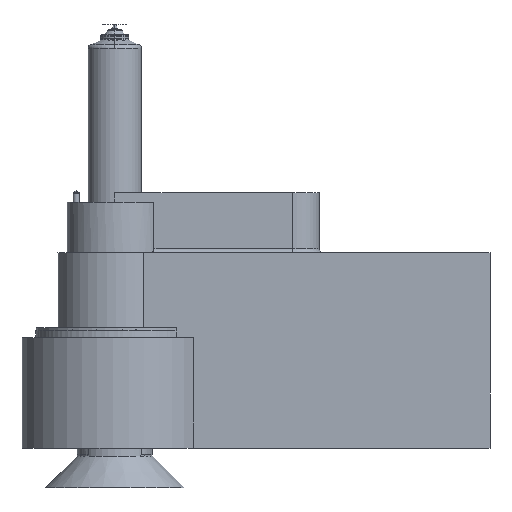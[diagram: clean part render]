
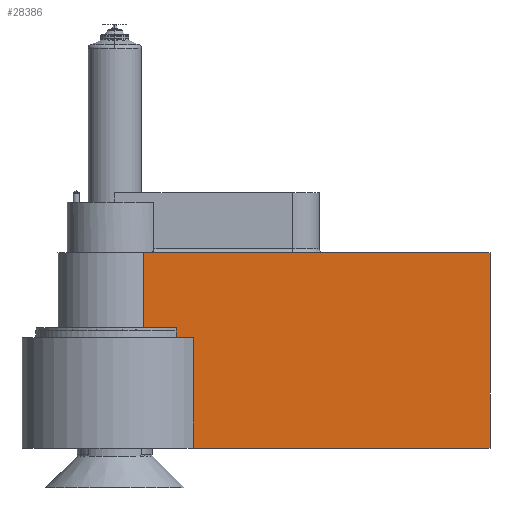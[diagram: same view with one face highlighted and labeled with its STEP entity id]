
A CAD part, front view. The second image highlights one B-rep face of the part: STEP entity #28386.
In plain terms, the highlighted planar face has unit normal (0, -1, 0).
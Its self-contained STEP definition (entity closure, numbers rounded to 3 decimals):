
#60 = LINE ( 'NONE', #38732, #2842 ) ;
#62 = VERTEX_POINT ( 'NONE', #36943 ) ;
#208 = ORIENTED_EDGE ( 'NONE', *, *, #33208, .F. ) ;
#388 = CARTESIAN_POINT ( 'NONE',  ( 190., -25., -107. ) ) ;
#1327 = VECTOR ( 'NONE', #17486, 1000. ) ;
#2294 = ORIENTED_EDGE ( 'NONE', *, *, #41546, .F. ) ;
#2842 = VECTOR ( 'NONE', #11421, 1000. ) ;
#3008 = VECTOR ( 'NONE', #28571, 1000. ) ;
#4091 = VERTEX_POINT ( 'NONE', #29759 ) ;
#6332 = VERTEX_POINT ( 'NONE', #42247 ) ;
#8786 = VERTEX_POINT ( 'NONE', #41950 ) ;
#8909 = VECTOR ( 'NONE', #9405, 1000. ) ;
#9145 = DIRECTION ( 'NONE',  ( 0., 0., 1. ) ) ;
#9405 = DIRECTION ( 'NONE',  ( 0., 0., 1. ) ) ;
#10457 = ORIENTED_EDGE ( 'NONE', *, *, #34163, .F. ) ;
#11374 = ORIENTED_EDGE ( 'NONE', *, *, #35253, .T. ) ;
#11421 = DIRECTION ( 'NONE',  ( -1., 0., 0. ) ) ;
#12503 = DIRECTION ( 'NONE',  ( 0., 0., -1. ) ) ;
#12676 = CARTESIAN_POINT ( 'NONE',  ( 190., -25., -8. ) ) ;
#13175 = CARTESIAN_POINT ( 'NONE',  ( 39.799, -25., 85.716 ) ) ;
#14210 = ORIENTED_EDGE ( 'NONE', *, *, #17630, .F. ) ;
#15220 = ORIENTED_EDGE ( 'NONE', *, *, #32430, .F. ) ;
#17486 = DIRECTION ( 'NONE',  ( -1., 0., 0. ) ) ;
#17630 = EDGE_CURVE ( 'NONE', #4091, #18617, #27602, .T. ) ;
#18036 = VECTOR ( 'NONE', #9145, 1000. ) ;
#18617 = VERTEX_POINT ( 'NONE', #44849 ) ;
#19527 = CARTESIAN_POINT ( 'NONE',  ( 31.225, -25., 85.716 ) ) ;
#20653 = LINE ( 'NONE', #13175, #26751 ) ;
#21333 = EDGE_CURVE ( 'NONE', #62, #4091, #44416, .T. ) ;
#22647 = CARTESIAN_POINT ( 'NONE',  ( 190., -25., -8. ) ) ;
#22907 = CARTESIAN_POINT ( 'NONE',  ( 190., -25., -107. ) ) ;
#23489 = CARTESIAN_POINT ( 'NONE',  ( 190., -25., -8. ) ) ;
#24969 = EDGE_CURVE ( 'NONE', #35486, #6332, #29058, .T. ) ;
#25543 = FACE_OUTER_BOUND ( 'NONE', #34597, .T. ) ;
#25767 = LINE ( 'NONE', #26706, #18036 ) ;
#26294 = VERTEX_POINT ( 'NONE', #22647 ) ;
#26706 = CARTESIAN_POINT ( 'NONE',  ( 14.697, -25., 85.716 ) ) ;
#26729 = AXIS2_PLACEMENT_3D ( 'NONE', #12676, #34202, #37464 ) ;
#26751 = VECTOR ( 'NONE', #41226, 1000. ) ;
#26947 = PLANE ( 'NONE',  #26729 ) ;
#27602 = LINE ( 'NONE', #38643, #31973 ) ;
#28386 = ADVANCED_FACE ( 'NONE', ( #25543 ), #26947, .F. ) ;
#28571 = DIRECTION ( 'NONE',  ( -1., 0., 0. ) ) ;
#29058 = LINE ( 'NONE', #388, #3008 ) ;
#29759 = CARTESIAN_POINT ( 'NONE',  ( 31.225, -25., -46. ) ) ;
#31973 = VECTOR ( 'NONE', #45298, 1000. ) ;
#32430 = EDGE_CURVE ( 'NONE', #18617, #36522, #25767, .T. ) ;
#33208 = EDGE_CURVE ( 'NONE', #8786, #62, #35121, .T. ) ;
#34163 = EDGE_CURVE ( 'NONE', #6332, #8786, #20653, .T. ) ;
#34202 = DIRECTION ( 'NONE',  ( 0., 1., 0. ) ) ;
#34597 = EDGE_LOOP ( 'NONE', ( #10457, #37196, #2294, #11374, #15220, #14210, #36258, #208 ) ) ;
#35121 = LINE ( 'NONE', #35142, #1327 ) ;
#35142 = CARTESIAN_POINT ( 'NONE',  ( 0., -25., -51. ) ) ;
#35253 = EDGE_CURVE ( 'NONE', #26294, #36522, #60, .T. ) ;
#35486 = VERTEX_POINT ( 'NONE', #22907 ) ;
#36223 = CARTESIAN_POINT ( 'NONE',  ( 14.697, -25., -8. ) ) ;
#36258 = ORIENTED_EDGE ( 'NONE', *, *, #21333, .F. ) ;
#36522 = VERTEX_POINT ( 'NONE', #36223 ) ;
#36943 = CARTESIAN_POINT ( 'NONE',  ( 31.225, -25., -51. ) ) ;
#37196 = ORIENTED_EDGE ( 'NONE', *, *, #24969, .F. ) ;
#37464 = DIRECTION ( 'NONE',  ( 0., 0., 1. ) ) ;
#37471 = VECTOR ( 'NONE', #12503, 1000. ) ;
#38643 = CARTESIAN_POINT ( 'NONE',  ( 0., -25., -46. ) ) ;
#38732 = CARTESIAN_POINT ( 'NONE',  ( 190., -25., -8. ) ) ;
#40826 = LINE ( 'NONE', #23489, #37471 ) ;
#41226 = DIRECTION ( 'NONE',  ( 0., 0., 1. ) ) ;
#41546 = EDGE_CURVE ( 'NONE', #26294, #35486, #40826, .T. ) ;
#41950 = CARTESIAN_POINT ( 'NONE',  ( 39.799, -25., -51. ) ) ;
#42247 = CARTESIAN_POINT ( 'NONE',  ( 39.799, -25., -107. ) ) ;
#44416 = LINE ( 'NONE', #19527, #8909 ) ;
#44849 = CARTESIAN_POINT ( 'NONE',  ( 14.697, -25., -46. ) ) ;
#45298 = DIRECTION ( 'NONE',  ( -1., 0., 0. ) ) ;
